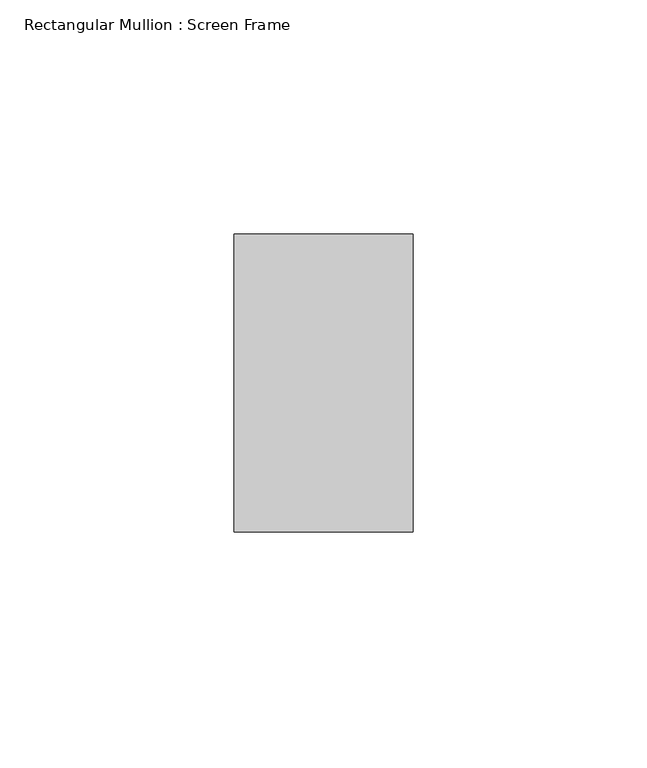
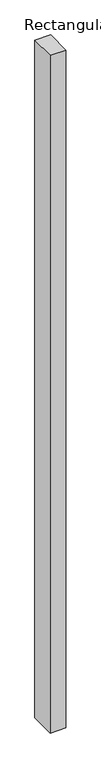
"""IFC4 building model written with IfcOpenShell, lengths in millimetres: member geometry, Rectangular Mullion : Screen Frame."""

from ifc_helpers import new_model, si_unit, frame, origin, place, context, project, spatial, polyline, outline, extrude, source, transform, mapped, element, save


def rectangular_mullion_screen_frame_511fec39(model_context):
    return source(origin(), model_context, "Body", "SweptSolid", [
        extrude(outline(polyline([(0.0, 31.75), (0.0, -31.75), (-38.1, -31.75), (-38.1, 31.75), (0.0, 31.75)])), frame((0.0, 0.0, -1727.6953), z_axis=(0.0, 0.0, 1.0), x_axis=(1.0, 0.0, 0.0)), (0.0, 0.0, 1.0), 1727.6953),
    ])


if __name__ == "__main__":
    model = new_model("IFC4")
    model_context = context("Model", 3, world=origin())
    ifc_project = project(units=[si_unit("LENGTHUNIT", "METRE", prefix="MILLI")], contexts=[model_context])
    site = spatial("IfcSite", under=ifc_project)
    building = spatial("IfcBuilding", under=site)
    placement = place(None, origin())
    rectangular_mullion_screen_frame_shape = rectangular_mullion_screen_frame_511fec39(model_context)
    element("IfcMember", 1, ObjectType="Rectangular Mullion : Screen Frame", at=placement, inside=building, context=model_context, shape_type="MappedRepresentation", body=[
        mapped(rectangular_mullion_screen_frame_shape, transform((0.0, 0.0, 0.0), x_axis=(1.0, 0.0, 0.0), y_axis=(0.0, 1.0, 0.0), z_axis=(0.0, 0.0, 1.0))),
    ])
    save(model, "model.ifc")
